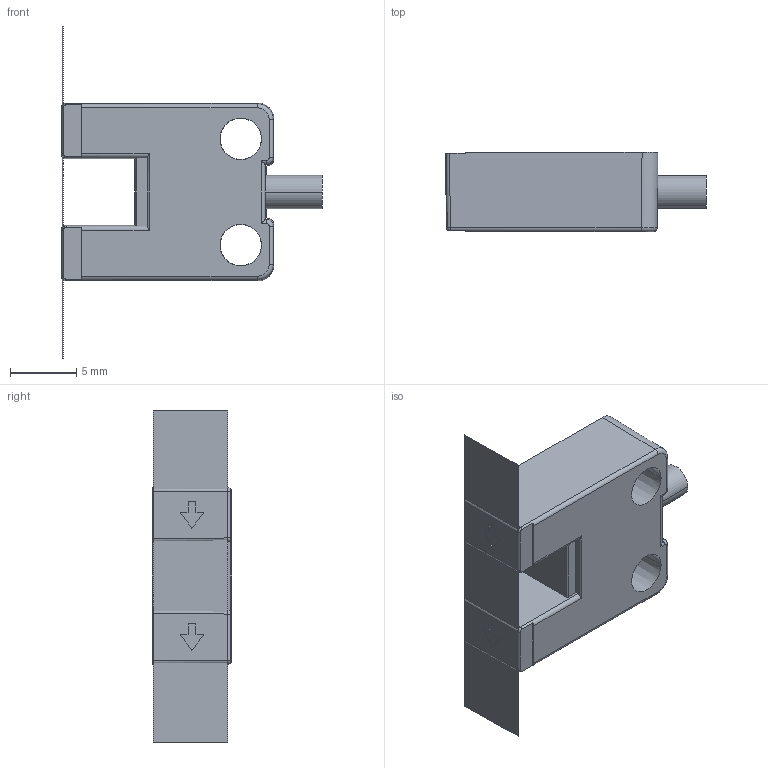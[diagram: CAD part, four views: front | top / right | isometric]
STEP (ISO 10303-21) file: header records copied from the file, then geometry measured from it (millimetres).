
FILE_DESCRIPTION((''),'2;1');
FILE_NAME('PM-U25_ASM','2018-06-23T14:52:28',('Administrator'),(''),'CREO PARAMETRIC BY PTC INC, 2016390','CREO PARAMETRIC BY PTC INC, 2016390','');
FILE_SCHEMA(('AUTOMOTIVE_DESIGN { 1 0 10303 214 1 1 1 1 }'));
Length unit declared in the file: millimetre
Products named in the file (7): PM-U25_1; PM-U25_2; 25PCB00; 0001; 25PCBASSEMBLY00_ASM; 0002; PM-U25_ASM
Assembly tree (6 placements, depth 3):
  PM-U25_ASM
    PM-U25_1
    PM-U25_2
    25PCBASSEMBLY00_ASM
      25PCB00
      0001
    0002
Bounding box: 19.65 x 6 x 25 mm (x, y, z)
Volume: 675.4 mm3; surface area: 2136.5 mm2
Topology: 7 solids, 8 shells, 359 faces, 992 edges, 648 vertices
Faces by surface type: plane 301, cylinder 38, cone 8, sphere 8, bspline 2, torus 2
Entity records: 13146 total; most frequent: CARTESIAN_POINT 2297, ORIENTED_EDGE 1964, DIRECTION 1778, EDGE_CURVE 984, VECTOR 862, LINE 862, VERTEX_POINT 648, AXIS2_PLACEMENT_3D 458
